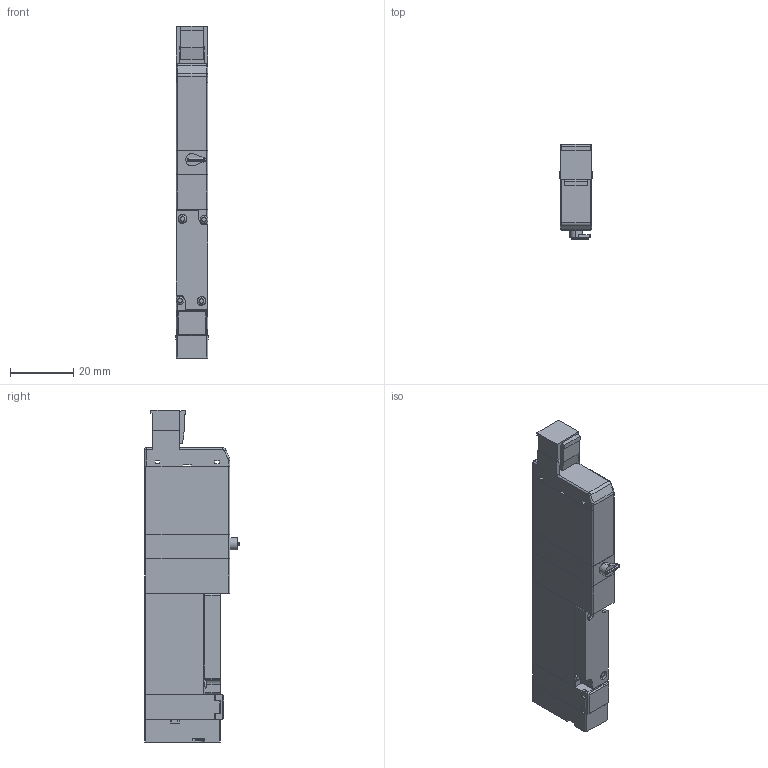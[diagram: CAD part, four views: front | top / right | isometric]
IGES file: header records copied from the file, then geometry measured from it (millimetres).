
Start section: ------------------------------------------------------------------------
Global section: file name: D:\ICADMX\tmp\trans3d_spg\CVICAD02.18204.F10T1-R-A1-PS_8608.igs; native system: spGate; preprocessor: ver12.6.6; author: Unknown; organization: Unknown; date: 200901.142438; units: millimetre
Bounding box: 10.2 x 30 x 105 mm (x, y, z)
Volume: 24365.9 mm3; surface area: 11538.8 mm2
Topology: 7 solids, 7 shells, 327 faces, 852 edges, 548 vertices
Faces by surface type: bspline 327
